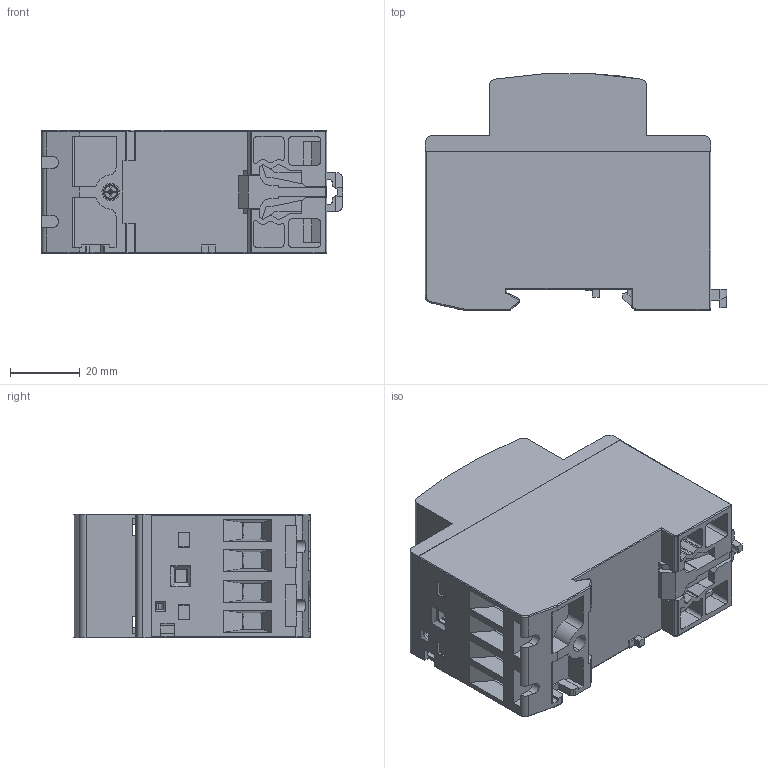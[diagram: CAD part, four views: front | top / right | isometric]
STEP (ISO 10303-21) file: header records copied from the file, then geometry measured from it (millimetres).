
FILE_DESCRIPTION (( 'STEP AP203' ), '1' );
FILE_NAME ('AUC6-20-2模.STEP', '2024-06-25T02:43:40', ( '微软用户' ), ( '微软中国' ), 'SwSTEP 2.0', 'SolidWorks 2023', '' );
FILE_SCHEMA (( 'CONFIG_CONTROL_DESIGN' ));
Length unit declared in the file: millimetre
Products named in the file (14): A20190827AUC1-25-4底座改AUB1卡扣; AXIAO-JIE-XIAN-BAN-1; ALUO_DING-3-1; AUC6-20-2模; AA封口片; 小螺钉; ATIE-XING-ZHI-JIA-1; A20180619AUB1卡扣模具更改; GAI-1; AATOU-MIN-BAO-SHI-1; AA大接线框; A接线板1; Ajxb_hyb1; A2mck
Assembly tree (32 placements, depth 3):
  AUC6-20-2模
    A20190827AUC1-25-4底座改AUB1卡扣
    A20180619AUB1卡扣模具更改
    A2mck  x8
    Ajxb_hyb1  x2
    AXIAO-JIE-XIAN-BAN-1  x2
    小螺钉  x2
    ALUO_DING-3-1  x2
    AATOU-MIN-BAO-SHI-1
    AA封口片
    A接线板1  x8
      AA大接线框
      小螺钉
    GAI-1
    ATIE-XING-ZHI-JIA-1
Bounding box: 86.6 x 67.81 x 35.4 mm (x, y, z)
Volume: 53855 mm3; surface area: 76905.6 mm2
Topology: 40 solids, 41 shells, 3660 faces, 10632 edges, 7003 vertices
Faces by surface type: plane 2514, cylinder 834, bspline 256, cone 36, torus 20
Entity records: 78657 total; most frequent: CARTESIAN_POINT 25577, ORIENTED_EDGE 11468, DIRECTION 9429, EDGE_CURVE 5734, VECTOR 4329, LINE 4329, VERTEX_POINT 3780, AXIS2_PLACEMENT_3D 2550
